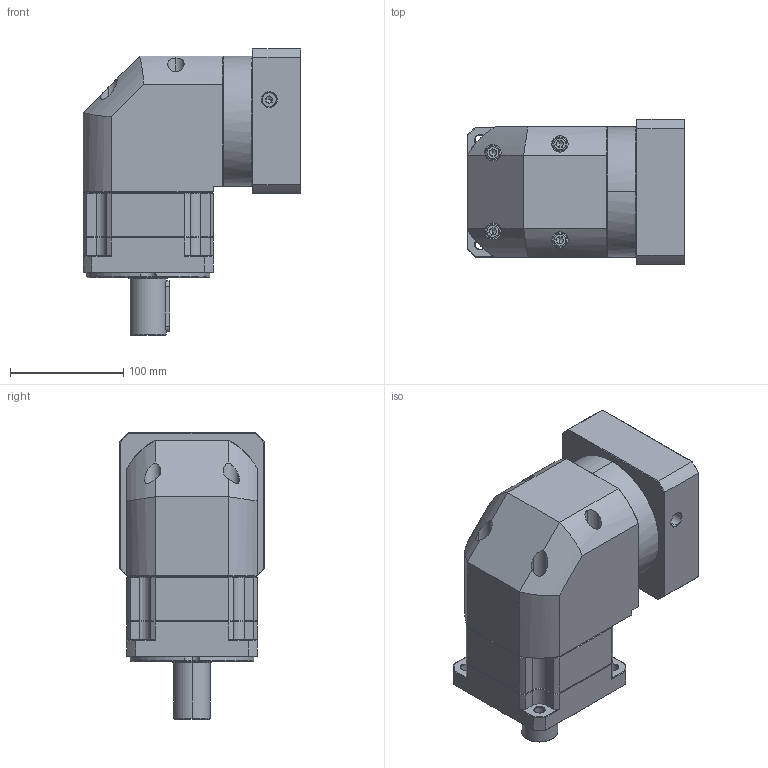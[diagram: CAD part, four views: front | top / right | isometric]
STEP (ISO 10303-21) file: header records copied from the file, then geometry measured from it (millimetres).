
FILE_DESCRIPTION (( 'STEP AP214' ), '1' );
FILE_NAME ('ZBR115A-D32-L1-P2-19-110-145-M8.step', '2023-08-26T12:35:50', ( '' ), ( '' ), 'SwSTEP 2.0', 'SolidWorks 2016', '' );
FILE_SCHEMA (( 'AUTOMOTIVE_DESIGN' ));
Length unit declared in the file: millimetre
Products named in the file (1): ZBR115A-D32-L1-P2-19-110-145-M8
Bounding box: 192.4 x 128 x 253 mm (x, y, z)
Volume: 3058941.2 mm3; surface area: 255029.8 mm2
Topology: 6 solids, 6 shells, 2380 faces, 6226 edges, 3950 vertices
Faces by surface type: plane 1139, cylinder 439, bspline 425, cone 369, torus 8
Entity records: 128293 total; most frequent: CARTESIAN_POINT 47227, ORIENTED_EDGE 12392, DIRECTION 9766, EDGE_CURVE 6196, LINE 3990, VECTOR 3990, VERTEX_POINT 3950, AXIS2_PLACEMENT_3D 2888
